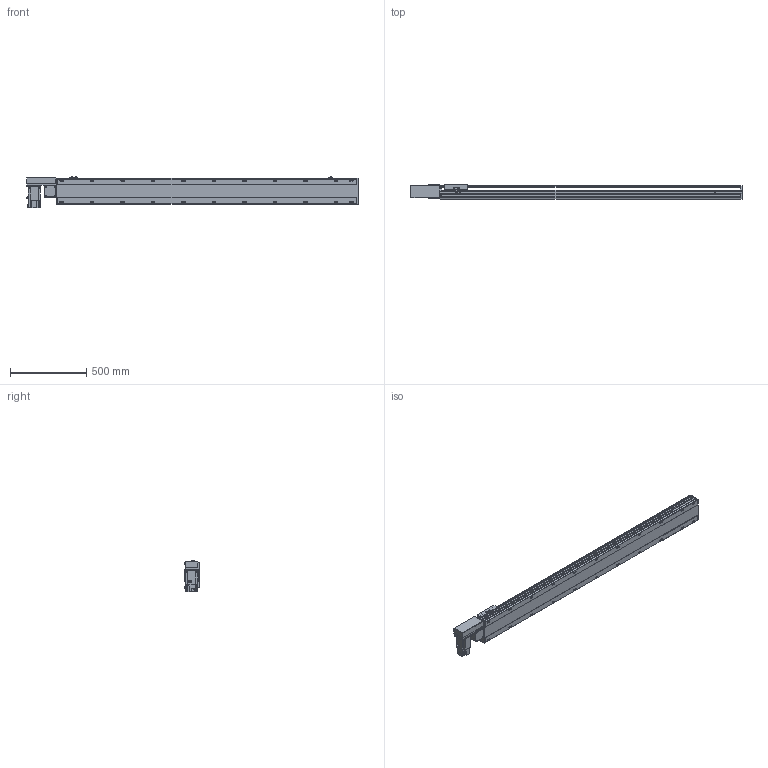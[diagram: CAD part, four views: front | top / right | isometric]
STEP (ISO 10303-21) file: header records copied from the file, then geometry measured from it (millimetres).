
FILE_DESCRIPTION( ( 'STEP AP214' ), '1' );
FILE_NAME( 'x:/temp/worker_4/temp/exporttempdir_2248_273_1kcEd/format_0/PBS170-P40-S1700-R-T75-C1-N(0).stp', '2022-06-07T07:31:00', ( 'License CC BY-ND 4.0' ), ( 'CADENAS' ), ' ', 'PARTsolutions', ' ' );
FILE_SCHEMA( ( 'AUTOMOTIVE_DESIGN { 1 0 10303 214 1 1 1 1 }' ) );
Length unit declared in the file: millimetre
Products named in the file (7): PBS170-P40-S1700-R-T75-C1-N(0); _PBS170-S1700()_body; _PBS170T-R_motors; _T75-p1; _PBS170_sliser; _PBS170_plant; _PBS170_sensor
Assembly tree (8 placements, depth 2):
  PBS170-P40-S1700-R-T75-C1-N(0)
    _PBS170-S1700()_body
    _PBS170T-R_motors
    _T75-p1
    _PBS170_sliser
    _PBS170_plant
    _PBS170_sensor  x3
Bounding box: 2178 x 97 x 205.3 mm (x, y, z)
Volume: 15977053.4 mm3; surface area: 2042360.4 mm2
Topology: 8 solids, 8 shells, 1130 faces, 2995 edges, 1952 vertices
Faces by surface type: plane 705, cylinder 363, cone 52, sphere 8, torus 2
Full cylindrical faces by diameter (mm): 3.242 x4, 4 x2, 4.4 x4, 4.5 x6, 4.917 x4, 6 x9, 6.647 x30, 7 x2, 7.5 x4, 8 x8, 8.5 x22, 10 x4, 10.5 x22, 11 x2, 30 x2, 40 x1, 70 x1
Entity records: 41666 total; most frequent: CARTESIAN_POINT 6725, DIRECTION 5510, ORIENTED_EDGE 5208, EDGE_CURVE 2604, AXIS2_PLACEMENT_3D 1927, VERTEX_POINT 1802, LINE 1656, VECTOR 1656
